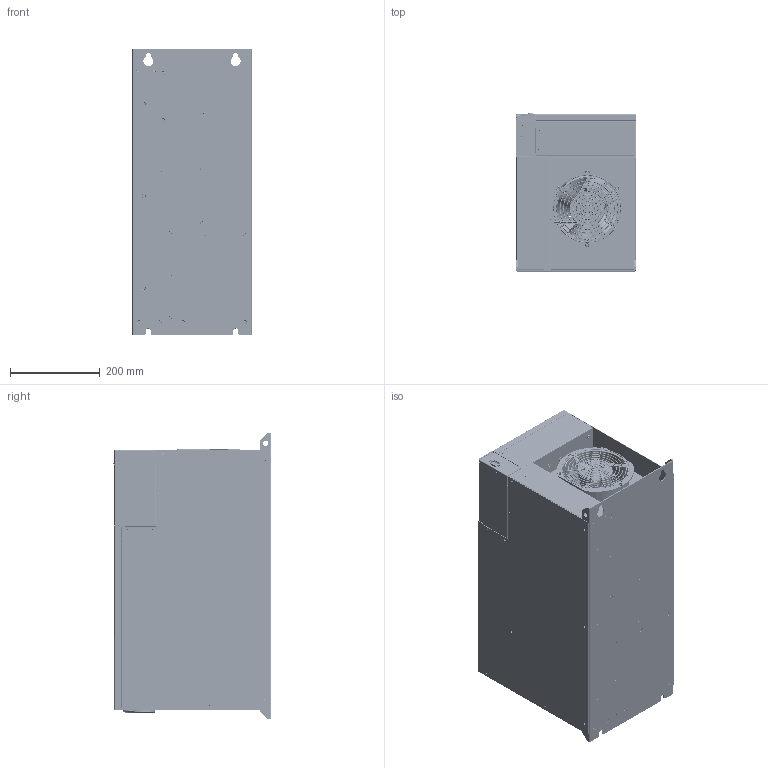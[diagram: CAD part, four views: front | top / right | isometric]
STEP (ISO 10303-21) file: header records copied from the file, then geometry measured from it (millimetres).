
FILE_DESCRIPTION((''),'2;1');
FILE_NAME('SD700-171D-P-0_ASM','2022-05-27T',('v0214'),(''),'CREO PARAMETRIC BY PTC INC, 2016260','CREO PARAMETRIC BY PTC INC, 2016260','');
FILE_SCHEMA(('AP203_CONFIGURATION_CONTROLLED_3D_DESIGN_OF_MECHANICAL_PARTS_AND_ASSEMBLIES_MIM_LF { 1 0 10303 403 2 1 2 }'));
Products named in the file (118): 90_157_10000_400V-1050010020; JNA440; JNA440GB; JNA440_C_6; M8_GB6170; JNA440_ASM; 90; F17251N29A220-1390020013; LOOP-60X90; LOOP-22; PY172-9HA; SD700-171D-D_ASM; AC300-T3-110G-P002P; S-M4-2; AC300-T3-110G-P002_ASM; AC300-T3-110G-P003P; BSO-3_5M3-20; TPS-4-10; S-M6-1; S-M3-2; AC300-T3-110G-P003_ASM; AC300-T3-110G-P004P; AC300-T3-110G-P004_ASM; AC300-T3-110G-P005P; S-M5-1; S-M4-1; S-M6-0; AC300-T3-110G-P005_ASM; AC300-T3-110G-P006P; AC300-T3-110G-P006_ASM; AC300-T3-110G-P007P; AC300-T3-110G-P007_ASM; AC300-T3-110G-P008P; AC300-T3-110G-P008_ASM; SD700-171D-P009P; SD700-171D-P009_ASM; AC300-T3-110G-P022; AC300-T3-110G-P023; AC300-T3-110G-P024; AC300-T3-110G-P025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
Assembly tree (279 placements, depth 6):
  SD700-171D-P-0_ASM
    SD700-171D-D_ASM
      90_157_10000_400V-1050010020  x5
      JNA440_ASM  x3
        JNA440
        JNA440GB
        JNA440_C_6
        M8_GB6170
      90  x4
      F17251N29A220-1390020013
      LOOP-60X90  x2
      LOOP-22
      PY172-9HA
    SD700-171D-P_ASM
      SD700-171D-P001_ASM
        AC300-T3-110G-P002_ASM
          AC300-T3-110G-P002P
          S-M4-2  x6
        AC300-T3-110G-P003_ASM
          AC300-T3-110G-P003P
          S-M4-2  x16
          BSO-3_5M3-20  x2
          TPS-4-10
          S-M6-1  x2
          S-M3-2  x2
        AC300-T3-110G-P004_ASM
          AC300-T3-110G-P004P
          TPS-4-10
          S-M4-2
        AC300-T3-110G-P005_ASM
          AC300-T3-110G-P005P
          S-M5-1  x4
          S-M4-1  x6
          S-M6-0  x2
        AC300-T3-110G-P006_ASM
          AC300-T3-110G-P006P
          S-M4-1  x2
        AC300-T3-110G-P007_ASM
          AC300-T3-110G-P007P
          S-M4-1
        AC300-T3-110G-P008_ASM
          AC300-T3-110G-P008P
          S-M3-2
        SD700-171D-P009_ASM
          SD700-171D-P009P
          S-M4-1  x3
        AC300-T3-110G-P022
        AC300-T3-110G-P023
        AC300-T3-110G-P024
        AC300-T3-110G-P025
        D4X10_GB12616  x53
        D3X8_GB12615  x2
      SD700-171D-P010_ASM
        AC300-T3-110G-P011_ASM
          AC300-T3-110G-P011P
        SD700-171D-P012_ASM
          SD700-171D-P012P
          S-M4-1
        AC300-T3-110G-P013_ASM
          AC300-T3-110G-P013P
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Bounding box: 270 x 353.95 x 638 mm (x, y, z)
Volume: 8268929.3 mm3; surface area: 3958036.5 mm2
Topology: 257 solids, 269 shells, 20862 faces, 77684 edges, 76779 vertices
Faces by surface type: plane 14862, cylinder 3999, cone 1232, torus 430, bspline 296, sphere 31, extrusion 12
Entity records: 633517 total; most frequent: CARTESIAN_POINT 94442, DIRECTION 81728, ORIENTED_EDGE 53684, PRESENTATION_STYLE_ASSIGNMENT 45787, STYLED_ITEM 44807, CURVE_STYLE 44738, VECTOR 38016, LINE 38004
